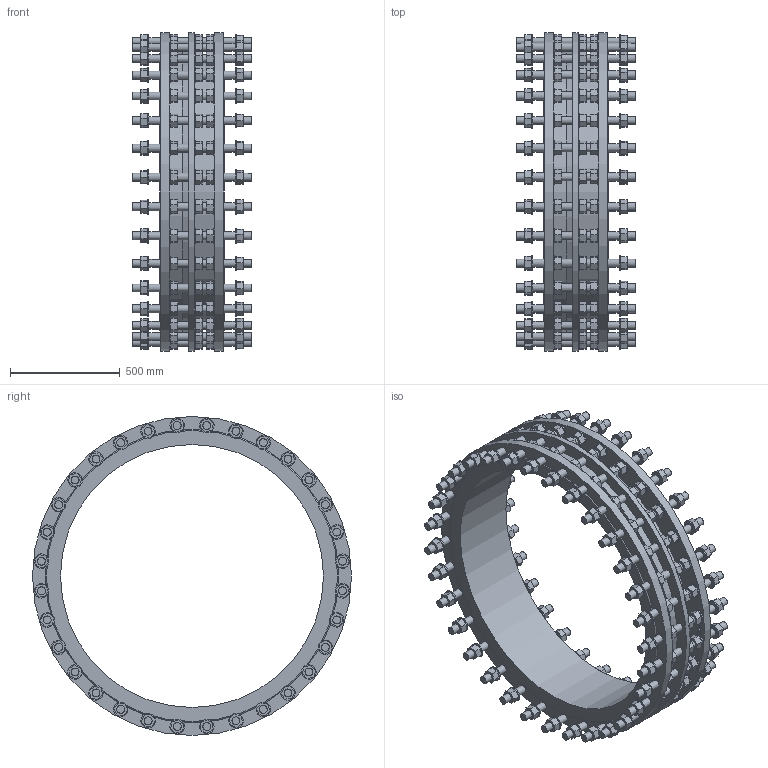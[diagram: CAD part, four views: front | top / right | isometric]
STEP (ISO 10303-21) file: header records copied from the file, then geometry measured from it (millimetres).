
FILE_DESCRIPTION (( 'STEP AP203' ), '1' );
FILE_NAME ('O_265_911_DN1200_0XXXXX01_L=295_REV01.step', '2024-12-12T08:36:17', ( '' ), ( '' ), 'SwSTEP 2.0', 'SolidWorks 2022', '' );
FILE_SCHEMA (( 'CONFIG_CONTROL_DESIGN' ));
Length unit declared in the file: millimetre
Products named in the file (1): O_265_911_DN1200_0XXXXX01_L=295_REV01
Bounding box: 545 x 1455 x 1455 mm (x, y, z)
Volume: 104897070.3 mm3; surface area: 7303007.4 mm2
Topology: 1 solids, 1 shells, 1819 faces, 4201 edges, 2843 vertices
Faces by surface type: plane 1456, cylinder 360, cone 3
Full cylindrical faces by diameter (mm): 36 x192, 66 x160, 1200 x1, 1232 x1, 1280 x1, 1455 x3
Entity records: 48686 total; most frequent: CARTESIAN_POINT 8249, DIRECTION 8079, ORIENTED_EDGE 7426, EDGE_CURVE 3713, VECTOR 2987, LINE 2987, EDGE_LOOP 2769, VERTEX_POINT 2716
